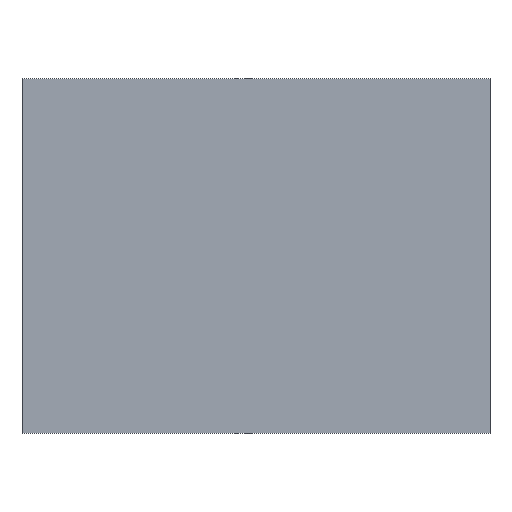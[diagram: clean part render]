
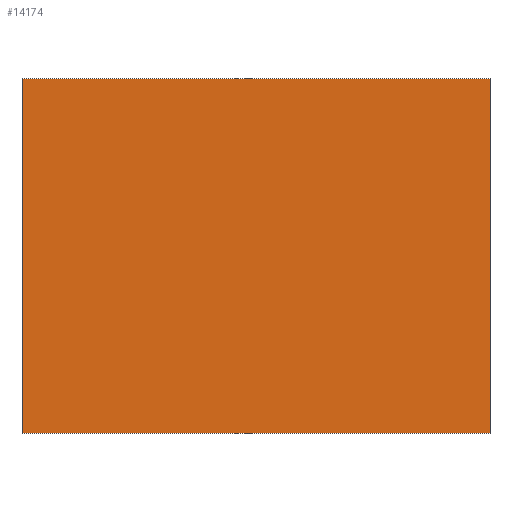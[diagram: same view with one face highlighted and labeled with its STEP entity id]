
A CAD part, front view. The second image highlights one B-rep face of the part: STEP entity #14174.
In plain terms, the highlighted planar face has unit normal (0, -1, 0).
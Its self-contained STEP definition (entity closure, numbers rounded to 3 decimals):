
#234 = CARTESIAN_POINT ( 'NONE',  ( 61., -44.4, -23.5 ) ) ;
#1084 = LINE ( 'NONE', #6192, #8558 ) ;
#1092 = CARTESIAN_POINT ( 'NONE',  ( 30., -44.4, 0. ) ) ;
#1184 = PLANE ( 'NONE',  #7066 ) ;
#1352 = DIRECTION ( 'NONE',  ( -1., 0., 0. ) ) ;
#1480 = VECTOR ( 'NONE', #3472, 1000. ) ;
#3272 = LINE ( 'NONE', #234, #14444 ) ;
#3362 = FACE_OUTER_BOUND ( 'NONE', #6027, .T. ) ;
#3387 = DIRECTION ( 'NONE',  ( 0., 0., -1. ) ) ;
#3427 = DIRECTION ( 'NONE',  ( 0., 0., -1. ) ) ;
#3472 = DIRECTION ( 'NONE',  ( 1., 0., 0. ) ) ;
#3652 = EDGE_CURVE ( 'NONE', #11008, #4906, #1084, .T. ) ;
#4526 = EDGE_CURVE ( 'NONE', #7466, #11008, #3272, .T. ) ;
#4906 = VERTEX_POINT ( 'NONE', #11474 ) ;
#5498 = CARTESIAN_POINT ( 'NONE',  ( 61., -44.4, 23.5 ) ) ;
#5580 = CARTESIAN_POINT ( 'NONE',  ( 61., -44.4, 23.5 ) ) ;
#5860 = ORIENTED_EDGE ( 'NONE', *, *, #3652, .F. ) ;
#6027 = EDGE_LOOP ( 'NONE', ( #5860, #7440, #6676, #6901 ) ) ;
#6192 = CARTESIAN_POINT ( 'NONE',  ( -1., -44.4, 23.5 ) ) ;
#6594 = CARTESIAN_POINT ( 'NONE',  ( 61., -44.4, 23.5 ) ) ;
#6676 = ORIENTED_EDGE ( 'NONE', *, *, #13481, .F. ) ;
#6901 = ORIENTED_EDGE ( 'NONE', *, *, #12422, .F. ) ;
#7066 = AXIS2_PLACEMENT_3D ( 'NONE', #1092, #11303, #3427 ) ;
#7440 = ORIENTED_EDGE ( 'NONE', *, *, #4526, .F. ) ;
#7466 = VERTEX_POINT ( 'NONE', #8718 ) ;
#7478 = VECTOR ( 'NONE', #3387, 1000. ) ;
#8558 = VECTOR ( 'NONE', #9715, 1000. ) ;
#8718 = CARTESIAN_POINT ( 'NONE',  ( 61., -44.4, -23.5 ) ) ;
#9715 = DIRECTION ( 'NONE',  ( 0., 0., 1. ) ) ;
#10473 = LINE ( 'NONE', #5580, #7478 ) ;
#10952 = CARTESIAN_POINT ( 'NONE',  ( -1., -44.4, -23.5 ) ) ;
#11008 = VERTEX_POINT ( 'NONE', #10952 ) ;
#11291 = VERTEX_POINT ( 'NONE', #5498 ) ;
#11303 = DIRECTION ( 'NONE',  ( 0., 1., 0. ) ) ;
#11474 = CARTESIAN_POINT ( 'NONE',  ( -1., -44.4, 23.5 ) ) ;
#12422 = EDGE_CURVE ( 'NONE', #4906, #11291, #14635, .T. ) ;
#13481 = EDGE_CURVE ( 'NONE', #11291, #7466, #10473, .T. ) ;
#14174 = ADVANCED_FACE ( 'NONE', ( #3362 ), #1184, .F. ) ;
#14444 = VECTOR ( 'NONE', #1352, 1000. ) ;
#14635 = LINE ( 'NONE', #6594, #1480 ) ;
